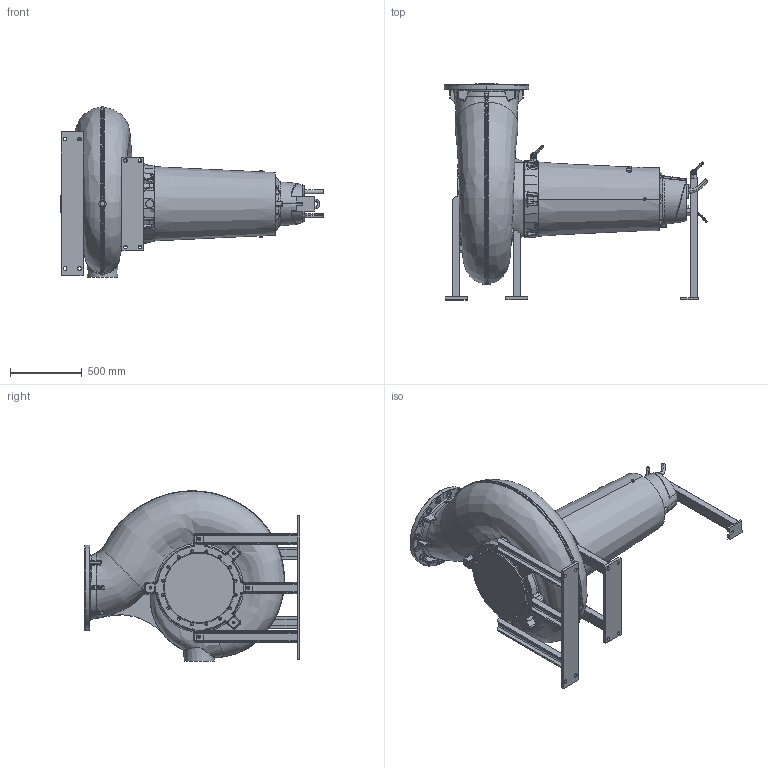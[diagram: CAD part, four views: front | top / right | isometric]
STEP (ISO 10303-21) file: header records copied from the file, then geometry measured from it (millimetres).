
FILE_DESCRIPTION (( 'STEP AP214' ), '1' );
FILE_NAME ('PE5_XFP400M-CH2_DRY HA_A_NG2.STEP', '2017-03-15T09:00:32', ( '' ), ( '' ), 'SwSTEP 2.0', 'SolidWorks 2017', '' );
FILE_SCHEMA (( 'AUTOMOTIVE_DESIGN' ));
Length unit declared in the file: millimetre
Products named in the file (1): PE5_XFP400M-CH2_DRY HA_A_NG2
Bounding box: 1834.09 x 1500 x 1184.25 mm (x, y, z)
Volume: 580053043.3 mm3; surface area: 7492829 mm2
Topology: 6 solids, 8 shells, 1820 faces, 4548 edges, 2708 vertices
Faces by surface type: bspline 609, cylinder 423, plane 389, cone 220, torus 133, sphere 46
Entity records: 142153 total; most frequent: CARTESIAN_POINT 84300, ORIENTED_EDGE 8878, DIRECTION 6520, EDGE_CURVE 4439, VERTEX_POINT 2704, AXIS2_PLACEMENT_3D 2631, EDGE_LOOP 1957, UNCERTAINTY_MEASURE_WITH_UNIT 1828
